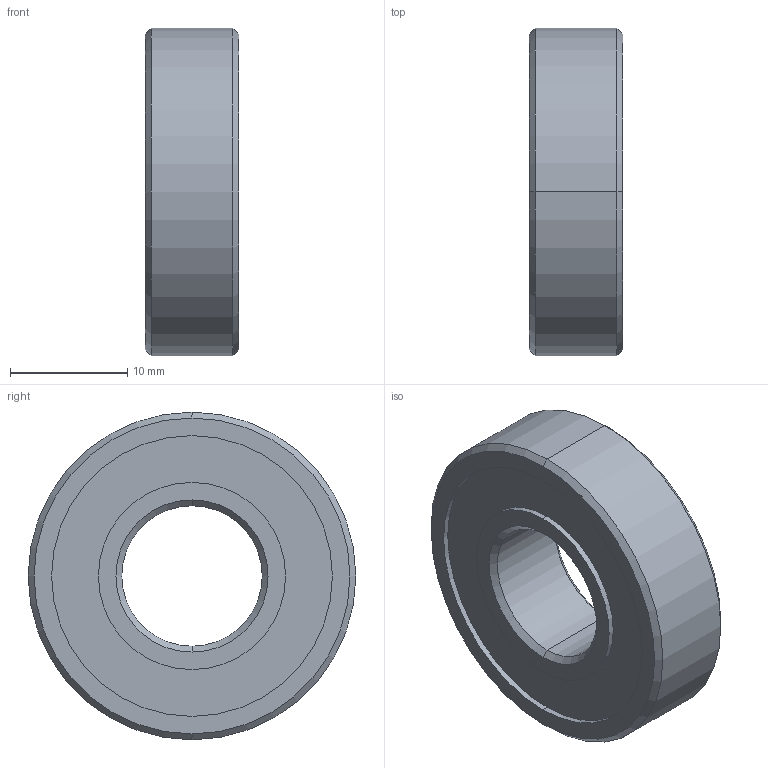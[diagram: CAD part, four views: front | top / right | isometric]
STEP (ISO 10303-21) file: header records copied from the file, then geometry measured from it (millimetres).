
FILE_DESCRIPTION (( 'STEP AP214' ), '1' );
FILE_NAME ('4.0030 Laakeri 6001 ZZ LBS.STEP', '2025-09-23T09:20:59', ( '' ), ( '' ), 'SwSTEP 2.0', 'SolidWorks 2025', '' );
FILE_SCHEMA (( 'AUTOMOTIVE_DESIGN' ));
Length unit declared in the file: millimetre
Products named in the file (1): 4.0030 Laakeri 6001 ZZ LBS
Bounding box: 8 x 28 x 28 mm (x, y, z)
Surface area: 3294.2 mm2 (no closed solid volume)
Topology: 0 solids, 3 shells, 24 faces, 50 edges, 32 vertices
Faces by surface type: cylinder 10, cone 8, plane 6
Entity records: 668 total; most frequent: DIRECTION 132, CARTESIAN_POINT 107, ORIENTED_EDGE 96, AXIS2_PLACEMENT_3D 57, EDGE_CURVE 50, VERTEX_POINT 32, CIRCLE 32, EDGE_LOOP 30
